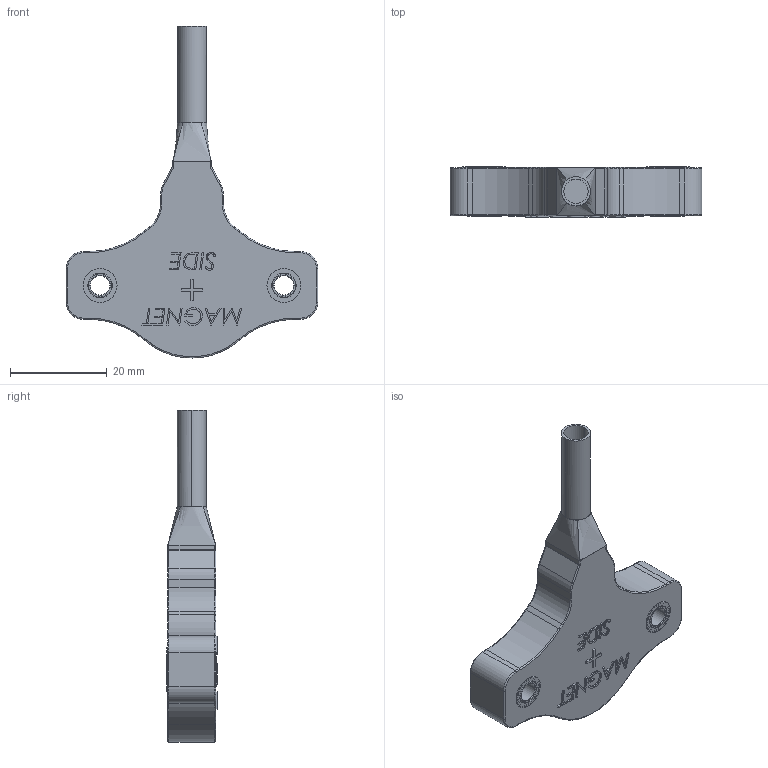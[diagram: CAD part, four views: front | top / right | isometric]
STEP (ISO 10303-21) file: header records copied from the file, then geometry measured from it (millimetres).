
FILE_DESCRIPTION (( 'STEP AP203' ), '1' );
FILE_NAME ('BME-INC.STEP', '2024-10-25T07:11:12', ( '' ), ( '' ), 'SwSTEP 2.0', 'SolidWorks 2023', '' );
FILE_SCHEMA (( 'CONFIG_CONTROL_DESIGN' ));
Length unit declared in the file: millimetre
Products named in the file (1): BME-INC
Bounding box: 52 x 10.5 x 68.63 mm (x, y, z)
Volume: 12164.9 mm3; surface area: 5324.8 mm2
Topology: 1 solids, 5 shells, 313 faces, 787 edges, 502 vertices
Faces by surface type: plane 135, cylinder 78, torus 46, bspline 38, cone 16
Entity records: 11916 total; most frequent: CARTESIAN_POINT 4385, ORIENTED_EDGE 1574, DIRECTION 1509, EDGE_CURVE 787, AXIS2_PLACEMENT_3D 532, VERTEX_POINT 502, LINE 445, VECTOR 445
